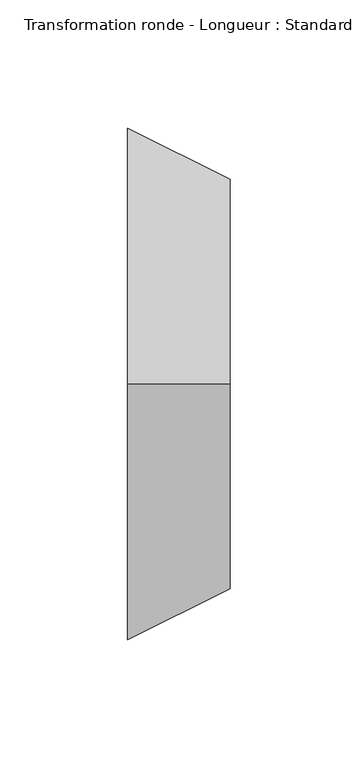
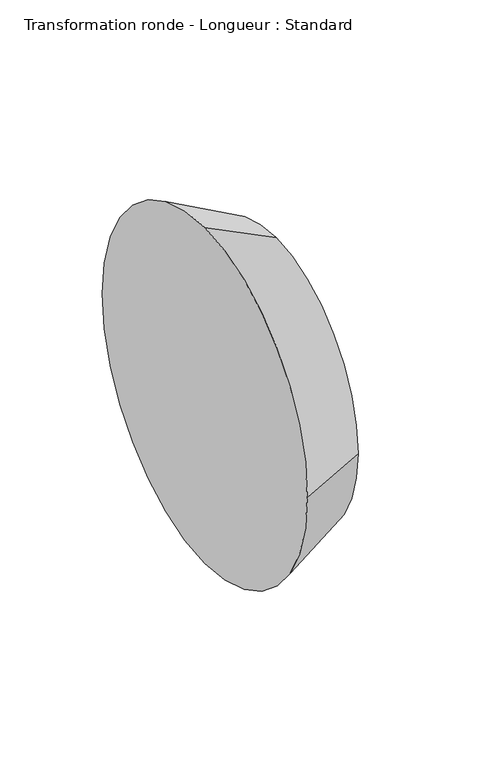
"""IFC4 building model written with IfcOpenShell, lengths in millimetres: duct fitting geometry, Transformation ronde - Longueur : Standard."""

from ifc_helpers import new_model, si_unit, frame, origin, place, context, project, spatial, polyline, circle_curve, source, transform, mapped, element, save
from ifc_brep_helpers import plane_surface, revolved_surface, advanced_brep


def transformation_ronde_longueur_standard_25e8c9cc(model_context):
    return source(origin(), model_context, "Body", "AdvancedBrep", [
        advanced_brep(
        [(40.0, 80.0, 0.0), (40.0, 0.0, 80.0), (40.0, -80.0, 0.0), (40.0, 0.0, -80.0), (0.0, 100.0, 0.0), (0.0, 0.0, -100.0), (0.0, -100.0, 0.0), (0.0, 0.0, 100.0)],
        [
            (0, 1, circle_curve(frame((40.0, 0.0, 0.0), z_axis=(1.0, 0.0, 0.0), x_axis=(0.0, 1.0, 0.0)), 80.0)),
            (1, 2, circle_curve(frame((40.0, 0.0, 0.0), z_axis=(1.0, 0.0, 0.0), x_axis=(0.0, 0.0, 1.0)), 80.0)),
            (2, 3, circle_curve(frame((40.0, 0.0, 0.0), z_axis=(1.0, 0.0, 0.0), x_axis=(0.0, -1.0, 0.0)), 80.0)),
            (3, 0, circle_curve(frame((40.0, 0.0, 0.0), z_axis=(1.0, 0.0, 0.0), x_axis=(0.0, 0.0, -1.0)), 80.0)),
            (4, 5, circle_curve(frame((0.0, 0.0, 0.0), z_axis=(-1.0, 0.0, 0.0), x_axis=(0.0, 0.0, -1.0)), 100.0)),
            (5, 6, circle_curve(frame((0.0, 0.0, 0.0), z_axis=(-1.0, 0.0, 0.0), x_axis=(0.0, -1.0, 0.0)), 100.0)),
            (6, 7, circle_curve(frame((0.0, 0.0, 0.0), z_axis=(-1.0, 0.0, 0.0), x_axis=(0.0, 0.0, 1.0)), 100.0)),
            (7, 4, circle_curve(frame((0.0, 0.0, 0.0), z_axis=(-1.0, 0.0, 0.0), x_axis=(0.0, 1.0, 0.0)), 100.0)),
            (0, 4),
            (7, 1),
            (6, 2),
            (5, 3),
        ],
        [
            plane_surface(frame((40.0, 0.0, 0.0), z_axis=(1.0, 0.0, 0.0), x_axis=(0.0, 0.0, 1.0))),
            plane_surface(frame((0.0, 0.0, 0.0), z_axis=(-1.0, 0.0, 0.0), x_axis=(0.0, 0.0, 1.0))),
            revolved_surface(polyline([(40.0, 80.0, 0.0), (0.0, 100.0, 0.0)]), (200.0, 0.0, 0.0), (-1.0, 0.0, 0.0)),
            revolved_surface(polyline([(40.0, 0.0, 80.0), (0.0, 0.0, 100.0)]), (200.0, 0.0, 0.0), (-1.0, 0.0, 0.0)),
            revolved_surface(polyline([(40.0, -80.0, 0.0), (0.0, -100.0, 0.0)]), (200.0, 0.0, 0.0), (-1.0, 0.0, 0.0)),
            revolved_surface(polyline([(40.0, 0.0, -80.0), (0.0, 0.0, -100.0)]), (200.0, 0.0, 0.0), (-1.0, 0.0, 0.0)),
        ],
        [
            (0, [[1, 2, 3, 4]]),
            (1, [[5, 6, 7, 8]]),
            (2, [[-1, 9, -8, 10]]),
            (3, [[-2, -10, -7, 11]]),
            (4, [[-3, -11, -6, 12]]),
            (5, [[-4, -12, -5, -9]]),
        ],
    ),
    ])


if __name__ == "__main__":
    model = new_model("IFC4")
    model_context = context("Model", 3, world=origin())
    ifc_project = project(units=[si_unit("LENGTHUNIT", "METRE", prefix="MILLI")], contexts=[model_context])
    site = spatial("IfcSite", under=ifc_project)
    building = spatial("IfcBuilding", under=site)
    placement = place(None, origin())
    transformation_ronde_longueur_standard_shape = transformation_ronde_longueur_standard_25e8c9cc(model_context)
    element("IfcDuctFitting", 1, ObjectType="Transformation ronde - Longueur : Standard", at=placement, inside=building, context=model_context, shape_type="MappedRepresentation", body=[
        mapped(transformation_ronde_longueur_standard_shape, transform((0.0, 0.0, 0.0), x_axis=(1.0, 0.0, 0.0), y_axis=(0.0, 1.0, 0.0), z_axis=(0.0, 0.0, 1.0))),
    ])
    save(model, "model.ifc")
